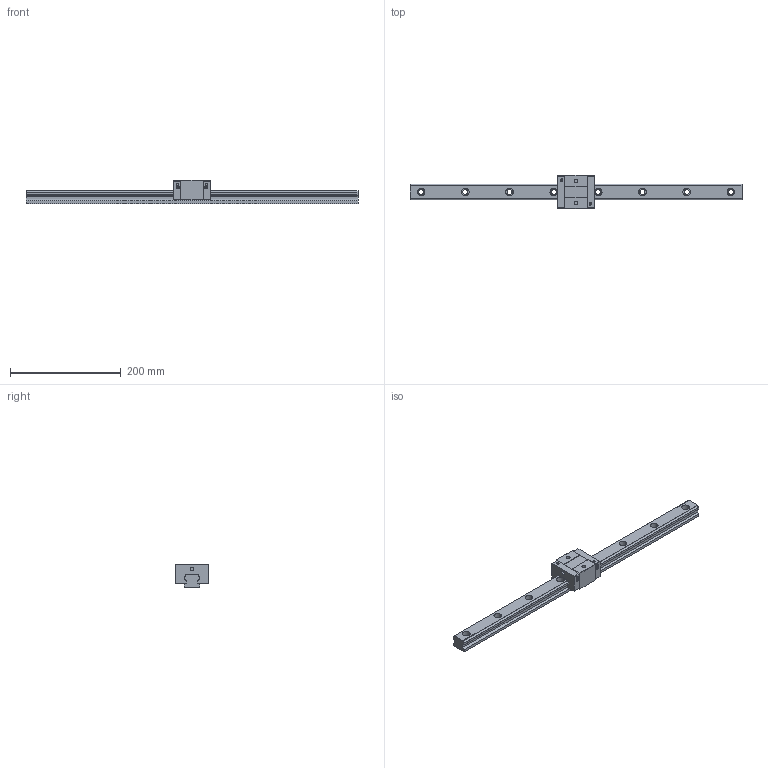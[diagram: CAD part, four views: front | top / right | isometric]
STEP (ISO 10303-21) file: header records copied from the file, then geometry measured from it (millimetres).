
FILE_DESCRIPTION (( 'STEP AP203' ), '1' );
FILE_NAME ('SRS30VS-XNC.STEP', '2026-02-12T07:49:16', ( '' ), ( '' ), 'SwSTEP 2.0', 'SolidWorks 2022', '' );
FILE_SCHEMA (( 'CONFIG_CONTROL_DESIGN' ));
Length unit declared in the file: millimetre
Products named in the file (1): SRS30VS-XNC
Bounding box: 600 x 60 x 42 mm (x, y, z)
Volume: 431229.8 mm3; surface area: 86164.9 mm2
Topology: 1 solids, 1 shells, 342 faces, 920 edges, 612 vertices
Faces by surface type: bspline 138, plane 120, cylinder 84
Entity records: 19189 total; most frequent: CARTESIAN_POINT 11277, ORIENTED_EDGE 1840, DIRECTION 1222, EDGE_CURVE 920, VERTEX_POINT 612, VECTOR 476, LINE 476, EDGE_LOOP 392
